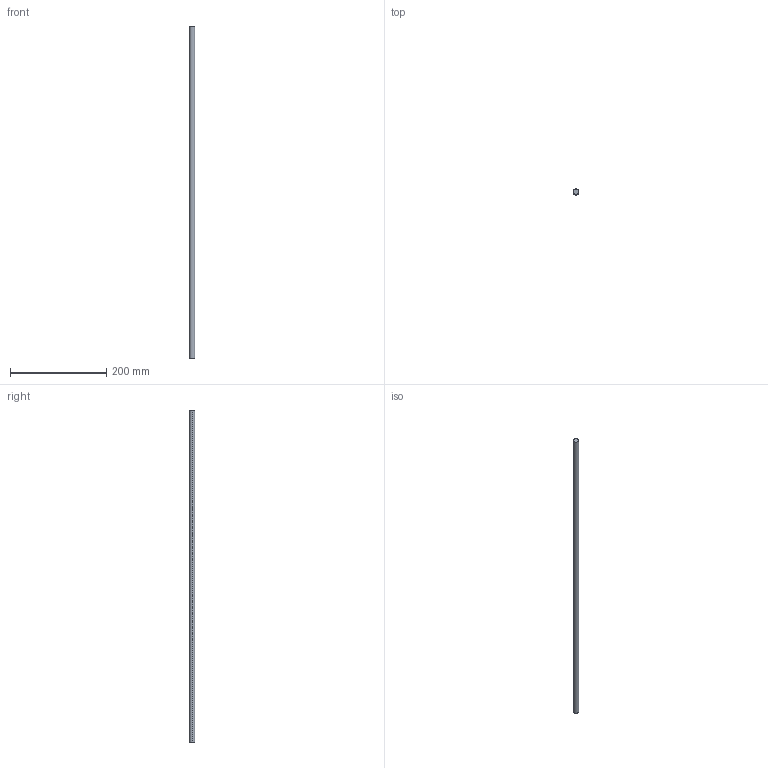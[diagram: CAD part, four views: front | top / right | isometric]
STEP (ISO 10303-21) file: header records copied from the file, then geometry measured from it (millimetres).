
FILE_DESCRIPTION (( 'STEP AP214' ), '1' );
FILE_NAME ('Magic Reling quer - S18_S19 - 800.step', '2010-09-07T14:56:13', ( 'grass' ), ( '' ), 'SwSTEP 2.0', 'SolidWorks 2010', '' );
FILE_SCHEMA (( 'AUTOMOTIVE_DESIGN' ));
Length unit declared in the file: millimetre
Products named in the file (1): Magic Reling quer - S18_S19 - 800
Bounding box: 12 x 12 x 691 mm (x, y, z)
Volume: 78150.3 mm3; surface area: 26276.3 mm2
Topology: 1 solids, 1 shells, 4 faces, 6 edges, 4 vertices
Faces by surface type: cylinder 2, plane 2
Entity records: 128 total; most frequent: DIRECTION 20, CARTESIAN_POINT 15, ORIENTED_EDGE 12, AXIS2_PLACEMENT_3D 9, EDGE_CURVE 6, EDGE_LOOP 4, CIRCLE 4, FACE_OUTER_BOUND 4
